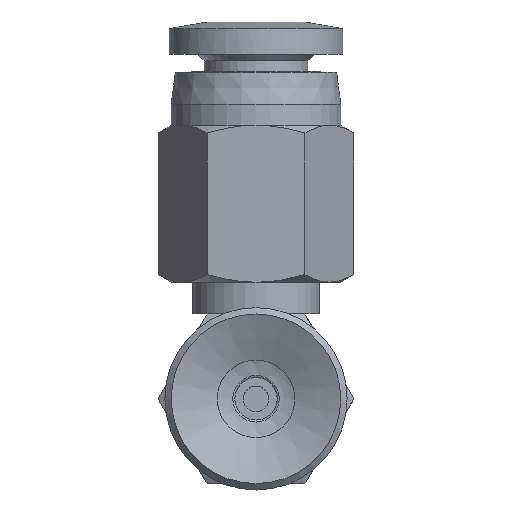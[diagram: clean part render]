
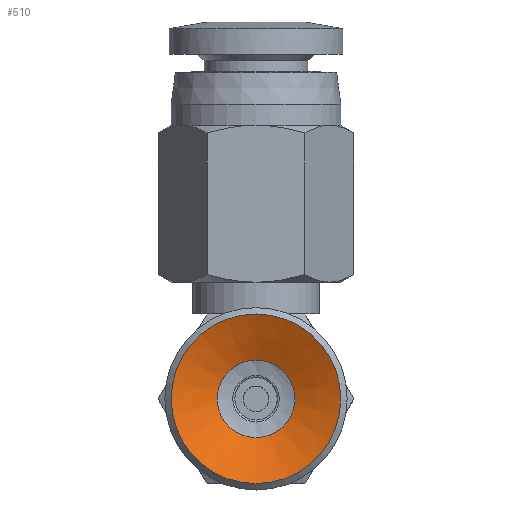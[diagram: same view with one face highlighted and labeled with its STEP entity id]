
A CAD part, front view. The second image highlights one B-rep face of the part: STEP entity #510.
In plain terms, the highlighted conical face has half-angle 65 degrees and reference radius 1.427 mm.
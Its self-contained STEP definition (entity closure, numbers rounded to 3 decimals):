
#510=ADVANCED_FACE('',(#755,#756),#757,.F.);
#755=FACE_BOUND('',#1149,.T.);
#756=FACE_OUTER_BOUND('',#1150,.T.);
#757=CONICAL_SURFACE('',#1151,1.427,1.134);
#1149=EDGE_LOOP('',(#1989));
#1150=EDGE_LOOP('',(#1990));
#1151=AXIS2_PLACEMENT_3D('',#1991,#1992,#1993);
#1989=ORIENTED_EDGE('',*,*,#2752,.T.);
#1990=ORIENTED_EDGE('',*,*,#2739,.T.);
#1991=CARTESIAN_POINT('',(0.0,7.096,0.));
#1992=DIRECTION('',(-0.0,-1.0,0.));
#1993=DIRECTION('',(0.0,0.,-1.0));
#2739=EDGE_CURVE('',#3068,#3068,#3069,.T.);
#2752=EDGE_CURVE('',#3094,#3094,#3095,.T.);
#3068=VERTEX_POINT('',#3774);
#3069=CIRCLE('',#3775,4.0);
#3094=VERTEX_POINT('',#3800);
#3095=CIRCLE('',#3801,1.828);
#3774=CARTESIAN_POINT('',(0.0,5.896,-4.0));
#3775=AXIS2_PLACEMENT_3D('',#4627,#4628,#4629);
#3800=CARTESIAN_POINT('',(0.0,6.909,-1.828));
#3801=AXIS2_PLACEMENT_3D('',#4666,#4667,#4668);
#4627=CARTESIAN_POINT('',(0.0,5.896,0.0));
#4628=DIRECTION('',(0.0,-1.0,0.));
#4629=DIRECTION('',(0.0,0.,-1.0));
#4666=CARTESIAN_POINT('',(0.0,6.909,0.0));
#4667=DIRECTION('',(0.0,1.0,0.));
#4668=DIRECTION('',(0.0,0.,-1.0));
